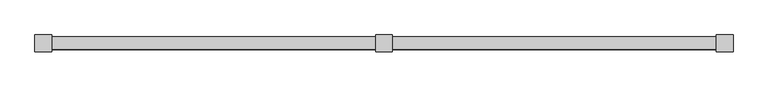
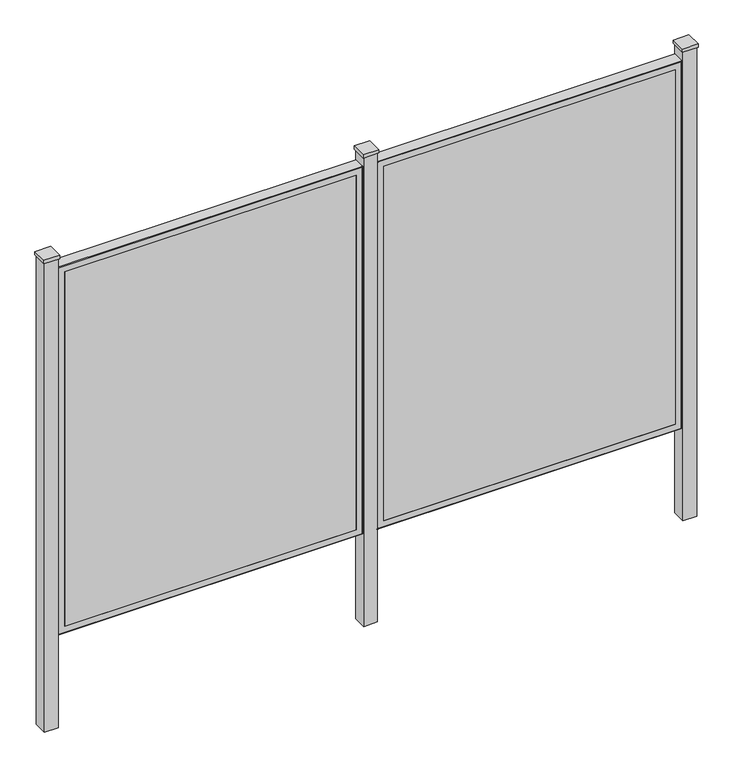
"""IFC4 building model written with IfcOpenShell, lengths in millimetres: proxy geometry, VIVA-Railings_Special-Equipment_Architectural-Fence-&-Landscape-Screens : 44” x 56” - Stainless Steel 0.078''."""

from ifc_helpers import new_model, si_unit, frame, origin, place, context, project, spatial, polyline, ellipse_curve, outline, extrude, source, transform, mapped, element, save
from ifc_brep_helpers import plane_surface, cylinder_surface, revolved_surface, advanced_brep


def specialty_equipment_10af8dc8(model_context):
    return source(origin(), model_context, "Body", "SolidModel", [
        extrude(outline(polyline([(2393.95, -28.575), (2336.8, -28.575), (2336.8, 28.575), (2393.95, 28.575), (2393.95, -28.575)])), frame((0.0, 0.0, 1511.3), z_axis=(0.0, 0.0, 1.0), x_axis=(1.0, 0.0, 0.0)), (0.0, 0.0, 1.0), 12.7),
        extrude(outline(polyline([(2339.975, 25.4), (2390.775, 25.4), (2390.775, -25.4), (2339.975, -25.4), (2339.975, 25.4)]), holes=[polyline([(2341.9562, -23.4188), (2388.7938, -23.4188), (2388.7938, 23.4188), (2341.9562, 23.4188), (2341.9562, -23.4188)])]), frame((0.0, 0.0, -304.8), z_axis=(0.0, 0.0, 1.0), x_axis=(1.0, 0.0, 0.0)), (0.0, 0.0, 1.0), 1816.1),
        advanced_brep(
        [(2339.975, 22.225, 1473.225), (2339.975, -20.2438, 1473.225), (2339.975, -20.2438, 50.825), (2339.975, 22.225, 50.825), (2337.9938, -18.6563, 1471.2438), (2337.9938, 22.225, 1471.2438), (2337.9938, 22.225, 52.8062), (2337.9938, -18.6563, 52.8062), (2336.4063, -20.2438, 1469.6563), (2336.4063, -20.2438, 54.3937), (2314.575, -22.225, 1447.825), (2314.575, -20.2438, 1447.825), (2314.575, -20.2438, 76.225), (2314.575, -22.225, 76.225), (2337.9938, -22.225, 1471.2438), (2337.9938, -22.225, 52.8062), (1222.375, -20.2438, 50.825), (1222.375, 22.225, 50.825), (1224.3562, 22.225, 52.8062), (1224.3562, -18.6563, 52.8062), (1225.9437, -20.2438, 54.3937), (1247.775, -20.2438, 76.225), (1247.775, -22.225, 76.225), (1224.3562, -22.225, 52.8062), (1222.375, -20.2438, 1473.225), (1222.375, 22.225, 1473.225), (1224.3562, 22.225, 1471.2438), (1224.3562, -18.6563, 1471.2438), (1225.9437, -20.2438, 1469.6563), (1247.775, -20.2438, 1447.825), (1247.775, -22.225, 1447.825), (1224.3562, -22.225, 1471.2438)],
        [
            (0, 1),
            (1, 2),
            (2, 3),
            (3, 0),
            (4, 5),
            (5, 6),
            (6, 7),
            (7, 4),
            (8, 4, ellipse_curve(frame((2336.4063, -18.6563, 1469.6563), z_axis=(-0.7071067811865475, 0.0, 0.7071067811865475), x_axis=(-0.7071067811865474, 0.0, -0.7071067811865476)), 2.245064, 1.5875)),
            (7, 9, ellipse_curve(frame((2336.4063, -18.6563, 54.3937), z_axis=(-0.7071067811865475, 0.0, -0.7071067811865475), x_axis=(0.7071067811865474, 0.0, -0.7071067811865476)), 2.245064, 1.5875)),
            (9, 8),
            (10, 11),
            (11, 12),
            (12, 13),
            (13, 10),
            (1, 14, ellipse_curve(frame((2337.9938, -20.2438, 1471.2438), z_axis=(0.7071067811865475, 0.0, -0.7071067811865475), x_axis=(0.7071067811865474, 0.0, 0.7071067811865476)), 2.8018399, 1.9812)),
            (14, 15),
            (15, 2, ellipse_curve(frame((2337.9938, -20.2438, 52.8062), z_axis=(0.7071067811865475, 0.0, 0.7071067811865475), x_axis=(-0.7071067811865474, 0.0, 0.7071067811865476)), 2.8018399, 1.9812)),
            (2, 16),
            (16, 17),
            (17, 3),
            (6, 18),
            (18, 19),
            (19, 7),
            (19, 20, ellipse_curve(frame((1225.9437, -18.6563, 54.3937), z_axis=(-0.7071067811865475, 0.0, 0.7071067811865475), x_axis=(-0.7071067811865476, 0.0, -0.7071067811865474)), 2.245064, 1.5875)),
            (20, 9),
            (12, 21),
            (21, 22),
            (22, 13),
            (15, 23),
            (23, 16, ellipse_curve(frame((1224.3562, -20.2438, 52.8062), z_axis=(0.7071067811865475, 0.0, -0.7071067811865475), x_axis=(0.7071067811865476, 0.0, 0.7071067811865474)), 2.8018399, 1.9812)),
            (16, 24),
            (24, 25),
            (25, 17),
            (18, 26),
            (26, 27),
            (27, 19),
            (27, 28, ellipse_curve(frame((1225.9437, -18.6563, 1469.6563), z_axis=(0.7071067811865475, 0.0, 0.7071067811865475), x_axis=(-0.7071067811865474, 0.0, 0.7071067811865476)), 2.245064, 1.5875)),
            (28, 20),
            (21, 29),
            (29, 30),
            (30, 22),
            (23, 31),
            (31, 24, ellipse_curve(frame((1224.3562, -20.2438, 1471.2438), z_axis=(-0.7071067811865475, 0.0, -0.7071067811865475), x_axis=(0.7071067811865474, 0.0, -0.7071067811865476)), 2.8018399, 1.9812)),
            (24, 1),
            (0, 25),
            (5, 26),
            (4, 27),
            (8, 28),
            (11, 29),
            (10, 30),
            (14, 31),
        ],
        [
            plane_surface(frame((2339.975, -20.2438, 1473.225), z_axis=(1.0, 0.0, 0.0), x_axis=(0.0, 0.0, -1.0))),
            plane_surface(frame((2337.9938, 22.225, 1471.2438), z_axis=(-1.0, 0.0, 0.0), x_axis=(0.0, 0.0, -1.0))),
            revolved_surface(polyline([(2337.9938, -18.6563, 52.80619999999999), (2337.9938, -18.6563, 1471.2438)]), (2336.4063, -18.6563, 1473.225), (0.0, 0.0, -1.0)),
            plane_surface(frame((2314.575, -20.2438, 1447.825), z_axis=(-1.0, 0.0, 0.0), x_axis=(0.0, 0.0, -1.0))),
            cylinder_surface(frame((2337.9938, -20.2438, 1473.225), z_axis=(0.0, 0.0, 1.0), x_axis=(1.0, 0.0, 0.0)), 1.9812),
            plane_surface(frame((2339.975, -20.2438, 50.825), z_axis=(0.0, 0.0, -1.0), x_axis=(-1.0, 0.0, 0.0))),
            plane_surface(frame((2337.9938, 22.225, 52.8062), z_axis=(0.0, 0.0, 1.0), x_axis=(-1.0, 0.0, 0.0))),
            revolved_surface(polyline([(1224.3562, -18.6563, 52.806200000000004), (2337.9938, -18.6563, 52.806200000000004)]), (2339.975, -18.6563, 54.3937), (-1.0, 0.0, 0.0)),
            plane_surface(frame((2314.575, -20.2438, 76.225), z_axis=(0.0, 0.0, 1.0), x_axis=(-1.0, 0.0, 0.0))),
            cylinder_surface(frame((2339.975, -20.2438, 52.8062), z_axis=(1.0, 0.0, 0.0), x_axis=(0.0, 0.0, -1.0)), 1.9812),
            plane_surface(frame((1222.375, -20.2438, 50.825), z_axis=(-1.0, 0.0, 0.0), x_axis=(0.0, 0.0, 1.0))),
            plane_surface(frame((1224.3562, 22.225, 52.8062), z_axis=(1.0, 0.0, 0.0), x_axis=(0.0, 0.0, 1.0))),
            revolved_surface(polyline([(1224.3562, -18.6563, 1471.2438), (1224.3562, -18.6563, 52.8062)]), (1225.9437, -18.6563, 50.825), (0.0, 0.0, 1.0)),
            plane_surface(frame((1247.775, -20.2438, 76.225), z_axis=(1.0, 0.0, 0.0), x_axis=(0.0, 0.0, 1.0))),
            cylinder_surface(frame((1224.3562, -20.2438, 50.825), z_axis=(0.0, 0.0, -1.0), x_axis=(-1.0, 0.0, 0.0)), 1.9812),
            plane_surface(frame((1222.375, -20.2438, 1473.225), z_axis=(0.0, 0.0, 1.0), x_axis=(1.0, 0.0, 0.0))),
            plane_surface(frame((1222.375, 22.225, 1473.225), z_axis=(0.0, 1.0, 0.0), x_axis=(1.0, 0.0, 0.0))),
            plane_surface(frame((1224.3562, 22.225, 1471.2438), z_axis=(0.0, 0.0, -1.0), x_axis=(1.0, 0.0, 0.0))),
            revolved_surface(polyline([(2337.9938, -18.6563, 1471.2438000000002), (1224.3562, -18.6563, 1471.2438000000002)]), (1222.375, -18.6563, 1469.6563), (1.0, 0.0, 0.0)),
            plane_surface(frame((1225.9437, -20.2438, 1469.6563), z_axis=(0.0, 1.0, 0.0), x_axis=(1.0, 0.0, 0.0))),
            plane_surface(frame((1247.775, -20.2438, 1447.825), z_axis=(0.0, 0.0, -1.0), x_axis=(1.0, 0.0, 0.0))),
            plane_surface(frame((1247.775, -22.225, 1447.825), z_axis=(0.0, -1.0, 0.0), x_axis=(1.0, 0.0, 0.0))),
            cylinder_surface(frame((1222.375, -20.2438, 1471.2438), z_axis=(-1.0, 0.0, 0.0), x_axis=(0.0, 0.0, 1.0)), 1.9812),
        ],
        [
            (0, [[1, 2, 3, 4]]),
            (1, [[5, 6, 7, 8]]),
            (2, [[9, -8, 10, 11]]),
            (3, [[12, 13, 14, 15]]),
            (4, [[16, 17, 18, -2]]),
            (5, [[-3, 19, 20, 21]]),
            (6, [[-7, 22, 23, 24]]),
            (7, [[-10, -24, 25, 26]]),
            (8, [[-14, 27, 28, 29]]),
            (9, [[-18, 30, 31, -19]]),
            (10, [[-20, 32, 33, 34]]),
            (11, [[-23, 35, 36, 37]]),
            (12, [[-25, -37, 38, 39]]),
            (13, [[-28, 40, 41, 42]]),
            (14, [[-31, 43, 44, -32]]),
            (15, [[-33, 45, -1, 46]]),
            (16, [[-21, -34, -46, -4], [47, -35, -22, -6]]),
            (17, [[-36, -47, -5, 48]]),
            (18, [[-38, -48, -9, 49]]),
            (19, [[-26, -39, -49, -11], [50, -40, -27, -13]]),
            (20, [[-41, -50, -12, 51]]),
            (21, [[52, -43, -30, -17], [-29, -42, -51, -15]]),
            (22, [[-44, -52, -16, -45]]),
        ],
    ),
        advanced_brep(
        [(1171.575, 22.225, 1473.225), (1171.575, -20.2438, 1473.225), (1171.575, -20.2438, 50.825), (1171.575, 22.225, 50.825), (1169.5938, -18.6563, 1471.2438), (1169.5938, 22.225, 1471.2438), (1169.5938, 22.225, 52.8062), (1169.5938, -18.6563, 52.8062), (1168.0063, -20.2438, 1469.6563), (1168.0063, -20.2438, 54.3937), (1146.175, -22.225, 1447.825), (1146.175, -20.2438, 1447.825), (1146.175, -20.2438, 76.225), (1146.175, -22.225, 76.225), (1169.5938, -22.225, 1471.2438), (1169.5938, -22.225, 52.8062), (53.975, -20.2438, 50.825), (53.975, 22.225, 50.825), (55.9562, 22.225, 52.8062), (55.9562, -18.6563, 52.8062), (57.5437, -20.2438, 54.3937), (79.375, -20.2438, 76.225), (79.375, -22.225, 76.225), (55.9562, -22.225, 52.8062), (53.975, -20.2438, 1473.225), (53.975, 22.225, 1473.225), (55.9562, 22.225, 1471.2438), (55.9562, -18.6563, 1471.2438), (57.5437, -20.2438, 1469.6563), (79.375, -20.2438, 1447.825), (79.375, -22.225, 1447.825), (55.9562, -22.225, 1471.2438)],
        [
            (0, 1),
            (1, 2),
            (2, 3),
            (3, 0),
            (4, 5),
            (5, 6),
            (6, 7),
            (7, 4),
            (8, 4, ellipse_curve(frame((1168.0063, -18.6563, 1469.6563), z_axis=(-0.7071067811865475, 0.0, 0.7071067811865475), x_axis=(-0.7071067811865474, 0.0, -0.7071067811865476)), 2.245064, 1.5875)),
            (7, 9, ellipse_curve(frame((1168.0063, -18.6563, 54.3937), z_axis=(-0.7071067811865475, 0.0, -0.7071067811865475), x_axis=(0.7071067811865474, 0.0, -0.7071067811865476)), 2.245064, 1.5875)),
            (9, 8),
            (10, 11),
            (11, 12),
            (12, 13),
            (13, 10),
            (1, 14, ellipse_curve(frame((1169.5938, -20.2438, 1471.2438), z_axis=(0.7071067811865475, 0.0, -0.7071067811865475), x_axis=(0.7071067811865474, 0.0, 0.7071067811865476)), 2.8018399, 1.9812)),
            (14, 15),
            (15, 2, ellipse_curve(frame((1169.5938, -20.2438, 52.8062), z_axis=(0.7071067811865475, 0.0, 0.7071067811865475), x_axis=(-0.7071067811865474, 0.0, 0.7071067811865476)), 2.8018399, 1.9812)),
            (2, 16),
            (16, 17),
            (17, 3),
            (6, 18),
            (18, 19),
            (19, 7),
            (19, 20, ellipse_curve(frame((57.5437, -18.6563, 54.3937), z_axis=(-0.7071067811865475, 0.0, 0.7071067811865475), x_axis=(-0.7071067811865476, 0.0, -0.7071067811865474)), 2.245064, 1.5875)),
            (20, 9),
            (12, 21),
            (21, 22),
            (22, 13),
            (15, 23),
            (23, 16, ellipse_curve(frame((55.9562, -20.2438, 52.8062), z_axis=(0.7071067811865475, 0.0, -0.7071067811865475), x_axis=(0.7071067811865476, 0.0, 0.7071067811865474)), 2.8018399, 1.9812)),
            (16, 24),
            (24, 25),
            (25, 17),
            (18, 26),
            (26, 27),
            (27, 19),
            (27, 28, ellipse_curve(frame((57.5437, -18.6563, 1469.6563), z_axis=(0.7071067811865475, 0.0, 0.7071067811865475), x_axis=(-0.7071067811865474, 0.0, 0.7071067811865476)), 2.245064, 1.5875)),
            (28, 20),
            (21, 29),
            (29, 30),
            (30, 22),
            (23, 31),
            (31, 24, ellipse_curve(frame((55.9562, -20.2438, 1471.2438), z_axis=(-0.7071067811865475, 0.0, -0.7071067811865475), x_axis=(0.7071067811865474, 0.0, -0.7071067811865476)), 2.8018399, 1.9812)),
            (24, 1),
            (0, 25),
            (5, 26),
            (4, 27),
            (8, 28),
            (11, 29),
            (10, 30),
            (14, 31),
        ],
        [
            plane_surface(frame((1171.575, -20.2438, 1473.225), z_axis=(1.0, 0.0, 0.0), x_axis=(0.0, 0.0, -1.0))),
            plane_surface(frame((1169.5938, 22.225, 1471.2438), z_axis=(-1.0, 0.0, 0.0), x_axis=(0.0, 0.0, -1.0))),
            revolved_surface(polyline([(1169.5938, -18.6563, 52.80619999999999), (1169.5938, -18.6563, 1471.2438)]), (1168.0063, -18.6563, 1473.225), (0.0, 0.0, -1.0)),
            plane_surface(frame((1146.175, -20.2438, 1447.825), z_axis=(-1.0, 0.0, 0.0), x_axis=(0.0, 0.0, -1.0))),
            cylinder_surface(frame((1169.5938, -20.2438, 1473.225), z_axis=(0.0, 0.0, 1.0), x_axis=(1.0, 0.0, 0.0)), 1.9812),
            plane_surface(frame((1171.575, -20.2438, 50.825), z_axis=(0.0, 0.0, -1.0), x_axis=(-1.0, 0.0, 0.0))),
            plane_surface(frame((1169.5938, 22.225, 52.8062), z_axis=(0.0, 0.0, 1.0), x_axis=(-1.0, 0.0, 0.0))),
            revolved_surface(polyline([(55.95620000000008, -18.6563, 52.806200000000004), (1169.5938, -18.6563, 52.806200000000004)]), (1171.575, -18.6563, 54.3937), (-1.0, 0.0, 0.0)),
            plane_surface(frame((1146.175, -20.2438, 76.225), z_axis=(0.0, 0.0, 1.0), x_axis=(-1.0, 0.0, 0.0))),
            cylinder_surface(frame((1171.575, -20.2438, 52.8062), z_axis=(1.0, 0.0, 0.0), x_axis=(0.0, 0.0, -1.0)), 1.9812),
            plane_surface(frame((53.975, -20.2438, 50.825), z_axis=(-1.0, 0.0, 0.0), x_axis=(0.0, 0.0, 1.0))),
            plane_surface(frame((55.9562, 22.225, 52.8062), z_axis=(1.0, 0.0, 0.0), x_axis=(0.0, 0.0, 1.0))),
            revolved_surface(polyline([(55.9562, -18.6563, 1471.2438), (55.9562, -18.6563, 52.8062)]), (57.5437, -18.6563, 50.825), (0.0, 0.0, 1.0)),
            plane_surface(frame((79.375, -20.2438, 76.225), z_axis=(1.0, 0.0, 0.0), x_axis=(0.0, 0.0, 1.0))),
            cylinder_surface(frame((55.9562, -20.2438, 50.825), z_axis=(0.0, 0.0, -1.0), x_axis=(-1.0, 0.0, 0.0)), 1.9812),
            plane_surface(frame((53.975, -20.2438, 1473.225), z_axis=(0.0, 0.0, 1.0), x_axis=(1.0, 0.0, 0.0))),
            plane_surface(frame((53.975, 22.225, 1473.225), z_axis=(0.0, 1.0, 0.0), x_axis=(1.0, 0.0, 0.0))),
            plane_surface(frame((55.9562, 22.225, 1471.2438), z_axis=(0.0, 0.0, -1.0), x_axis=(1.0, 0.0, 0.0))),
            revolved_surface(polyline([(1169.5938, -18.6563, 1471.2438000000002), (55.9562, -18.6563, 1471.2438000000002)]), (53.975, -18.6563, 1469.6563), (1.0, 0.0, 0.0)),
            plane_surface(frame((57.5437, -20.2438, 1469.6563), z_axis=(0.0, 1.0, 0.0), x_axis=(1.0, 0.0, 0.0))),
            plane_surface(frame((79.375, -20.2438, 1447.825), z_axis=(0.0, 0.0, -1.0), x_axis=(1.0, 0.0, 0.0))),
            plane_surface(frame((79.375, -22.225, 1447.825), z_axis=(0.0, -1.0, 0.0), x_axis=(1.0, 0.0, 0.0))),
            cylinder_surface(frame((53.975, -20.2438, 1471.2438), z_axis=(-1.0, 0.0, 0.0), x_axis=(0.0, 0.0, 1.0)), 1.9812),
        ],
        [
            (0, [[1, 2, 3, 4]]),
            (1, [[5, 6, 7, 8]]),
            (2, [[9, -8, 10, 11]]),
            (3, [[12, 13, 14, 15]]),
            (4, [[16, 17, 18, -2]]),
            (5, [[-3, 19, 20, 21]]),
            (6, [[-7, 22, 23, 24]]),
            (7, [[-10, -24, 25, 26]]),
            (8, [[-14, 27, 28, 29]]),
            (9, [[-18, 30, 31, -19]]),
            (10, [[-20, 32, 33, 34]]),
            (11, [[-23, 35, 36, 37]]),
            (12, [[-25, -37, 38, 39]]),
            (13, [[-28, 40, 41, 42]]),
            (14, [[-31, 43, 44, -32]]),
            (15, [[-33, 45, -1, 46]]),
            (16, [[-21, -34, -46, -4], [47, -35, -22, -6]]),
            (17, [[-36, -47, -5, 48]]),
            (18, [[-38, -48, -9, 49]]),
            (19, [[-26, -39, -49, -11], [50, -40, -27, -13]]),
            (20, [[-41, -50, -12, 51]]),
            (21, [[52, -43, -30, -17], [-29, -42, -51, -15]]),
            (22, [[-44, -52, -16, -45]]),
        ],
    ),
        extrude(outline(polyline([(2314.575, -22.225), (1247.775, -22.225), (1247.775, -20.2438), (2314.575, -20.2438), (2314.575, -22.225)])), frame((0.0, 0.0, 76.225), z_axis=(0.0, 0.0, 1.0), x_axis=(1.0, 0.0, 0.0)), (0.0, 0.0, 1.0), 1371.6),
        extrude(outline(polyline([(1146.175, -22.225), (79.375, -22.225), (79.375, -20.2438), (1146.175, -20.2438), (1146.175, -22.225)])), frame((0.0, 0.0, 76.225), z_axis=(0.0, 0.0, 1.0), x_axis=(1.0, 0.0, 0.0)), (0.0, 0.0, 1.0), 1371.6),
        extrude(outline(polyline([(1225.55, -28.575), (1168.4, -28.575), (1168.4, 28.575), (1225.55, 28.575), (1225.55, -28.575)])), frame((0.0, 0.0, 1511.3), z_axis=(0.0, 0.0, 1.0), x_axis=(1.0, 0.0, 0.0)), (0.0, 0.0, 1.0), 12.7),
        extrude(outline(polyline([(1171.575, 25.4), (1222.375, 25.4), (1222.375, -25.4), (1171.575, -25.4), (1171.575, 25.4)]), holes=[polyline([(1173.5562, -23.4188), (1220.3938, -23.4188), (1220.3938, 23.4188), (1173.5562, 23.4188), (1173.5562, -23.4188)])]), frame((0.0, 0.0, -304.8), z_axis=(0.0, 0.0, 1.0), x_axis=(1.0, 0.0, 0.0)), (0.0, 0.0, 1.0), 1816.1),
        extrude(outline(polyline([(57.15, -28.575), (0.0, -28.575), (0.0, 28.575), (57.15, 28.575), (57.15, -28.575)])), frame((0.0, 0.0, 1511.3), z_axis=(0.0, 0.0, 1.0), x_axis=(1.0, 0.0, 0.0)), (0.0, 0.0, 1.0), 12.7),
        extrude(outline(polyline([(3.175, 25.4), (53.975, 25.4), (53.975, -25.4), (3.175, -25.4), (3.175, 25.4)]), holes=[polyline([(5.1562, -23.4188), (51.9938, -23.4188), (51.9938, 23.4188), (5.1562, 23.4188), (5.1562, -23.4188)])]), frame((0.0, 0.0, -304.8), z_axis=(0.0, 0.0, 1.0), x_axis=(1.0, 0.0, 0.0)), (0.0, 0.0, 1.0), 1816.1),
    ])


if __name__ == "__main__":
    model = new_model("IFC4")
    model_context = context("Model", 3, world=origin())
    ifc_project = project(units=[si_unit("LENGTHUNIT", "METRE", prefix="MILLI")], contexts=[model_context])
    site = spatial("IfcSite", under=ifc_project)
    building = spatial("IfcBuilding", under=site)
    placement = place(None, origin())
    specialty_equipment_shape = specialty_equipment_10af8dc8(model_context)
    element("IfcBuildingElementProxy", 1, Name="VIVA-Railings_Special-Equipment_Architectural-Fence-&-Landscape-Screens : 44” x 56” - Stainless Steel 0.078''", ObjectType="VIVA-Railings_Special-Equipment_Architectural-Fence-&-Landscape-Screens : 44” x 56” - Stainless Steel 0.078''", at=placement, inside=building, context=model_context, shape_type="MappedRepresentation", body=[
        mapped(specialty_equipment_shape, transform((0.0, 0.0, 0.0), x_axis=(1.0, 0.0, 0.0), y_axis=(0.0, 1.0, 0.0), z_axis=(0.0, 0.0, 1.0))),
    ])
    save(model, "model.ifc")
